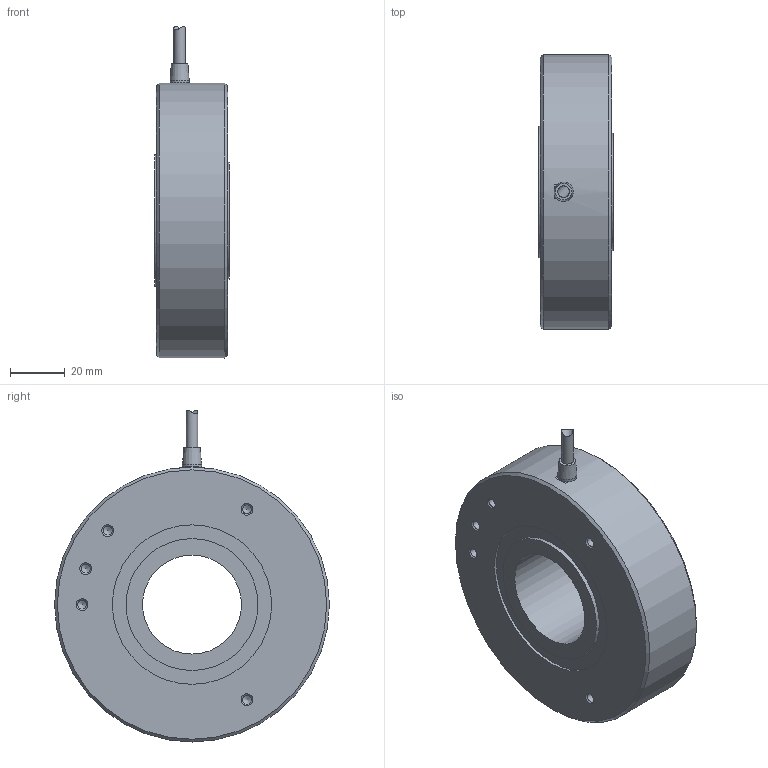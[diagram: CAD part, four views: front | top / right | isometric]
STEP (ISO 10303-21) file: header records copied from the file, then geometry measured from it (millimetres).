
FILE_DESCRIPTION(('STEP AP242'),'1');
FILE_NAME(').stp','2025-06-09T01:18:43',(' '),(' '),'Spatial InterOp 3D',' ',' ');
FILE_SCHEMA(('AP242_MANAGED_MODEL_BASED_3D_ENGINEERING_MIM_LF {1 0 10303 442 1 1 4}'));
Length unit declared in the file: millimetre
Products named in the file (1): L07H01 MEH-85P(1024P以下)
Bounding box: 27 x 100 x 120.79 mm (x, y, z)
Volume: 176843.1 mm3; surface area: 26396.6 mm2
Topology: 1 solids, 2 shells, 55 faces, 117 edges, 72 vertices
Faces by surface type: cylinder 21, cone 16, plane 15, torus 3
Full cylindrical faces by diameter (mm): 3.3 x10, 4.2 x1, 7 x1, 36 x1, 42.6 x2, 48 x1, 53 x1, 58 x1, 100 x1
Entity records: 1776 total; most frequent: CARTESIAN_POINT 276, DIRECTION 226, ORIENTED_EDGE 130, AXIS2_PLACEMENT_3D 107, EDGE_LOOP 103, FACE_OUTER_BOUND 77, EDGE_CURVE 65, VERTEX_POINT 63
